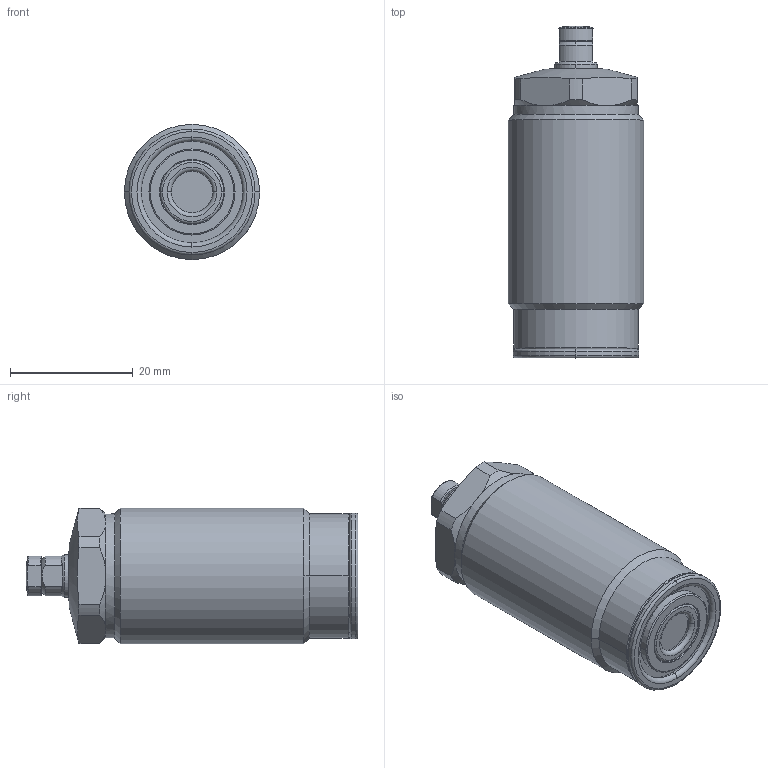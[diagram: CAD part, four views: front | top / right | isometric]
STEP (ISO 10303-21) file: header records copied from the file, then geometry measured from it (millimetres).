
FILE_DESCRIPTION(/* description */ (''),/* implementation_level */ '2;1');
FILE_NAME(/* name */ 'TNL22.stp',/* time_stamp */ '2025-01-09T13:40:56+08:00',/* author */ (''),/* organization */ (''),/* preprocessor_version */ 'ST-DEVELOPER v16.7',/* originating_system */ 'SIEMENS PLM Software NX 12.0',/* authorisation */ '');
FILE_SCHEMA (('AUTOMOTIVE_DESIGN { 1 0 10303 214 3 1 1 1 }'));
Length unit declared in the file: millimetre
Products named in the file (7): XLD-M4_Oring; XLD-M4_contactbolt; TNL22-01; TNL22-04; TNL22-02; TNL22-03; TNL22_stp
Assembly tree (6 placements, depth 3):
  TNL22_stp
    TNL22-02
    TNL22-04
    TNL22-03
      XLD-M4_contactbolt
      XLD-M4_Oring
    TNL22-01
Bounding box: 22 x 54 x 22 mm (x, y, z)
Volume: 17075.9 mm3; surface area: 4806 mm2
Topology: 5 solids, 5 shells, 139 faces, 302 edges, 180 vertices
Faces by surface type: cylinder 43, torus 38, plane 34, cone 22, sphere 2
Full cylindrical faces by diameter (mm): 20.2 x1, 22 x1
Entity records: 4115 total; most frequent: CARTESIAN_POINT 834, DIRECTION 747, ORIENTED_EDGE 596, AXIS2_PLACEMENT_3D 335, EDGE_CURVE 298, CIRCLE 189, VERTEX_POINT 180, EDGE_LOOP 156
